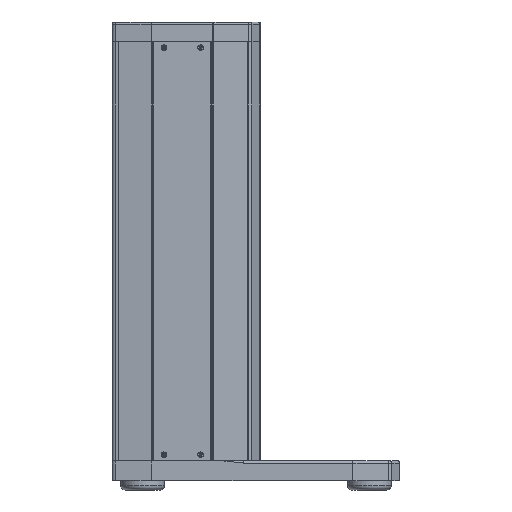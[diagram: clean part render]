
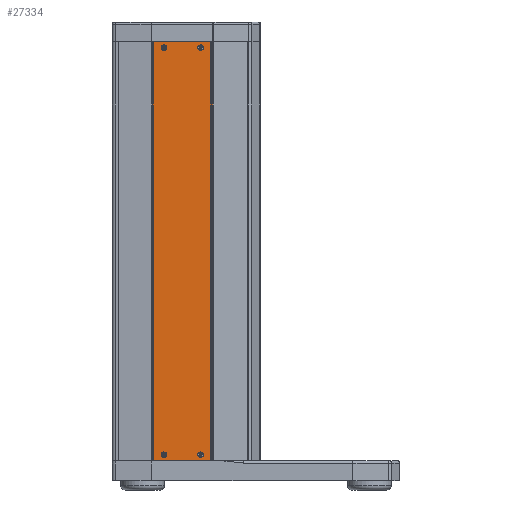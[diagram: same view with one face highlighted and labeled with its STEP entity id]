
A CAD part, left-side view. The second image highlights one B-rep face of the part: STEP entity #27334.
In plain terms, the highlighted planar face has unit normal (-1, 0, 0).
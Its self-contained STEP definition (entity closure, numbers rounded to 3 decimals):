
#1102=FACE_BOUND('',#5286,.T.);
#1103=FACE_BOUND('',#5287,.T.);
#1104=FACE_BOUND('',#5288,.T.);
#1105=FACE_BOUND('',#5289,.T.);
#1536=CIRCLE('',#29160,0.163);
#1538=CIRCLE('',#29163,0.163);
#1557=CIRCLE('',#29202,0.163);
#1567=CIRCLE('',#29228,0.163);
#3449=FACE_OUTER_BOUND('',#5285,.T.);
#5285=EDGE_LOOP('',(#20054,#20055,#20056,#20057));
#5286=EDGE_LOOP('',(#20058));
#5287=EDGE_LOOP('',(#20059));
#5288=EDGE_LOOP('',(#20060));
#5289=EDGE_LOOP('',(#20061));
#7507=LINE('',#41740,#9718);
#7528=LINE('',#41798,#9739);
#7529=LINE('',#41802,#9740);
#7530=LINE('',#41803,#9741);
#9718=VECTOR('',#33770,1.);
#9739=VECTOR('',#33833,1.);
#9740=VECTOR('',#33838,1.);
#9741=VECTOR('',#33839,1.);
#11754=VERTEX_POINT('',#40694);
#11756=VERTEX_POINT('',#40700);
#11781=VERTEX_POINT('',#40800);
#11797=VERTEX_POINT('',#40874);
#12023=VERTEX_POINT('',#41737);
#12024=VERTEX_POINT('',#41739);
#12040=VERTEX_POINT('',#41797);
#12041=VERTEX_POINT('',#41801);
#14512=EDGE_CURVE('',#11754,#11754,#1536,.T.);
#14515=EDGE_CURVE('',#11756,#11756,#1538,.T.);
#14558=EDGE_CURVE('',#11781,#11781,#1557,.T.);
#14588=EDGE_CURVE('',#11797,#11797,#1567,.T.);
#14964=EDGE_CURVE('',#12023,#12024,#7507,.T.);
#14993=EDGE_CURVE('',#12024,#12040,#7528,.T.);
#14995=EDGE_CURVE('',#12023,#12041,#7529,.T.);
#14996=EDGE_CURVE('',#12041,#12040,#7530,.T.);
#20054=ORIENTED_EDGE('',*,*,#14995,.T.);
#20055=ORIENTED_EDGE('',*,*,#14996,.T.);
#20056=ORIENTED_EDGE('',*,*,#14993,.F.);
#20057=ORIENTED_EDGE('',*,*,#14964,.F.);
#20058=ORIENTED_EDGE('',*,*,#14512,.T.);
#20059=ORIENTED_EDGE('',*,*,#14515,.T.);
#20060=ORIENTED_EDGE('',*,*,#14558,.T.);
#20061=ORIENTED_EDGE('',*,*,#14588,.T.);
#26280=PLANE('',#29539);
#27334=ADVANCED_FACE('',(#3449,#1102,#1103,#1104,#1105),#26280,.T.);
#29160=AXIS2_PLACEMENT_3D('',#40695,#32818,#32819);
#29163=AXIS2_PLACEMENT_3D('',#40701,#32825,#32826);
#29202=AXIS2_PLACEMENT_3D('',#40801,#32921,#32922);
#29228=AXIS2_PLACEMENT_3D('',#40875,#32987,#32988);
#29539=AXIS2_PLACEMENT_3D('',#41800,#33836,#33837);
#32818=DIRECTION('center_axis',(1.,0.,0.));
#32819=DIRECTION('ref_axis',(0.,0.,
-1.));
#32825=DIRECTION('center_axis',(1.,0.,0.));
#32826=DIRECTION('ref_axis',(0.,0.,
-1.));
#32921=DIRECTION('center_axis',(1.,0.,0.));
#32922=DIRECTION('ref_axis',(0.,0.,
-1.));
#32987=DIRECTION('center_axis',(1.,0.,0.));
#32988=DIRECTION('ref_axis',(0.,0.,
-1.));
#33770=DIRECTION('',(0.,1.,0.));
#33833=DIRECTION('',(0.,0.,1.));
#33836=DIRECTION('center_axis',(-1.,0.,0.));
#33837=DIRECTION('ref_axis',(0.,0.,
1.));
#33838=DIRECTION('',(0.,0.,1.));
#33839=DIRECTION('',(0.,1.,0.));
#40694=CARTESIAN_POINT('',(63.972,-48.052,-13.809));
#40695=CARTESIAN_POINT('Origin',(63.972,-48.052,-13.971));
#40700=CARTESIAN_POINT('',(63.972,-50.152,-13.809));
#40701=CARTESIAN_POINT('Origin',(63.972,-50.152,-13.971));
#40800=CARTESIAN_POINT('',(63.972,-50.152,-37.109));
#40801=CARTESIAN_POINT('Origin',(63.972,-50.152,-37.271));
#40874=CARTESIAN_POINT('',(63.972,-48.052,-37.109));
#40875=CARTESIAN_POINT('Origin',(63.972,-48.052,-37.271));
#41737=CARTESIAN_POINT('',(63.972,-50.852,-37.608));
#41739=CARTESIAN_POINT('',(63.972,-47.353,-37.608));
#41740=CARTESIAN_POINT('',(63.972,-50.852,-37.608));
#41797=CARTESIAN_POINT('',(63.972,-47.353,-13.634));
#41798=CARTESIAN_POINT('',(63.972,-47.353,-37.538));
#41800=CARTESIAN_POINT('Origin',(63.972,-50.852,-37.538));
#41801=CARTESIAN_POINT('',(63.972,-50.852,-13.634));
#41802=CARTESIAN_POINT('',(63.972,-50.852,-37.538));
#41803=CARTESIAN_POINT('',(63.972,-50.852,-13.634));
